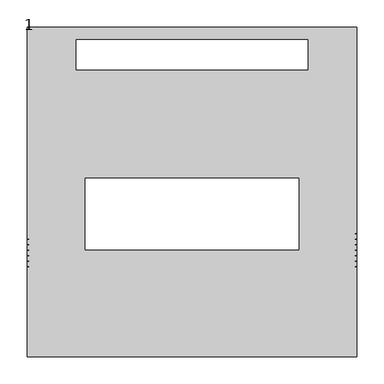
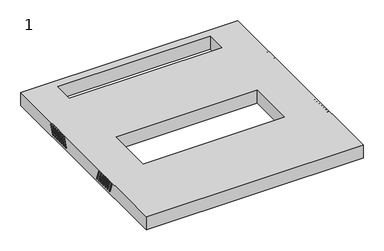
"""IFC4 building model written with IfcOpenShell, lengths in millimetres: proxy geometry, 1."""

from ifc_helpers import new_model, si_unit, frame, origin, place, context, project, spatial, polyline, circle_curve, source, transform, mapped, element, save
from ifc_brep_helpers import plane_surface, revolved_surface, advanced_brep


def proxy_1_e55c0a81(model_context):
    return source(origin(), model_context, "Body", "AdvancedBrep", [
        advanced_brep(
        [(298.0, -135.8, 345.7479679), (298.0, -126.9074763, 321.3159597), (298.0, -123.1487058, 322.6840403), (298.0, -132.0412295, 347.1160484), (298.0, -125.8, 345.7479679), (298.0, -116.9074763, 321.3159597), (298.0, -113.1487058, 322.6840403), (298.0, -122.0412295, 347.1160484), (298.0, -115.8, 345.7479679), (298.0, -106.9074763, 321.3159597), (298.0, -103.1487058, 322.6840403), (298.0, -112.0412295, 347.1160484), (298.0, -105.8, 345.7479679), (298.0, -96.9074763, 321.3159597), (298.0, -93.1487058, 322.6840403), (298.0, -102.0412295, 347.1160484), (298.0, -95.8, 345.7479679), (298.0, -86.9074763, 321.3159597), (298.0, -83.1487058, 322.6840403), (298.0, -92.0412295, 347.1160484), (298.0, -85.8, 345.7479679), (298.0, -76.9074763, 321.3159597), (298.0, -73.1487058, 322.6840403), (298.0, -82.0412295, 347.1160484), (298.0, -75.8, 345.7479679), (298.0, -66.9074763, 321.3159597), (298.0, -63.1487058, 322.6840403), (298.0, -72.0412295, 347.1160484), (300.0, -132.0412295, 347.1160484), (300.0, -135.8, 345.7479679), (300.0, -123.1487058, 322.6840403), (300.0, -126.9074763, 321.3159597), (300.0, -122.0412295, 347.1160484), (300.0, -125.8, 345.7479679), (300.0, -113.1487058, 322.6840403), (300.0, -116.9074763, 321.3159597), (300.0, -112.0412295, 347.1160484), (300.0, -115.8, 345.7479679), (300.0, -103.1487058, 322.6840403), (300.0, -106.9074763, 321.3159597), (300.0, -102.0412295, 347.1160484), (300.0, -105.8, 345.7479679), (300.0, -93.1487058, 322.6840403), (300.0, -96.9074763, 321.3159597), (300.0, -92.0412295, 347.1160484), (300.0, -95.8, 345.7479679), (300.0, -83.1487058, 322.6840403), (300.0, -86.9074763, 321.3159597), (300.0, -82.0412295, 347.1160484), (300.0, -85.8, 345.7479679), (300.0, -73.1487058, 322.6840403), (300.0, -76.9074763, 321.3159597), (300.0, -72.0412295, 347.1160484), (300.0, -75.8, 345.7479679), (300.0, -63.1487058, 322.6840403), (300.0, -66.9074763, 321.3159597), (300.0, 300.0, 314.0), (300.0, -300.0, 314.0), (-300.0, -300.0, 314.0), (-300.0, 300.0, 314.0), (-211.0, 222.5, 314.0), (211.0, 222.5, 314.0), (211.0, 277.5, 314.0), (-211.0, 277.5, 314.0), (195.0, 25.0, 314.0), (-195.0, 25.0, 314.0), (-195.0, -105.0, 314.0), (195.0, -105.0, 314.0), (300.0, 300.0, 352.0), (-300.0, 300.0, 352.0), (-300.0, -300.0, 352.0), (300.0, -300.0, 352.0), (-211.0, 222.5, 352.0), (-211.0, 277.5, 352.0), (211.0, 277.5, 352.0), (211.0, 222.5, 352.0), (195.0, 25.0, 352.0), (195.0, -105.0, 352.0), (-195.0, -105.0, 352.0), (-195.0, 25.0, 352.0), (-300.0, -66.9074763, 321.3159597), (-300.0, -63.1487058, 322.6840403), (-300.0, -72.0412295, 347.1160484), (-300.0, -75.8, 345.7479679), (-300.0, -76.9074763, 321.3159597), (-300.0, -73.1487058, 322.6840403), (-300.0, -82.0412295, 347.1160484), (-300.0, -85.8, 345.7479679), (-300.0, -86.9074763, 321.3159597), (-300.0, -83.1487058, 322.6840403), (-300.0, -92.0412295, 347.1160484), (-300.0, -95.8, 345.7479679), (-300.0, -96.9074763, 321.3159597), (-300.0, -93.1487058, 322.6840403), (-300.0, -102.0412295, 347.1160484), (-300.0, -105.8, 345.7479679), (-300.0, -106.9074763, 321.3159597), (-300.0, -103.1487058, 322.6840403), (-300.0, -112.0412295, 347.1160484), (-300.0, -115.8, 345.7479679), (-300.0, -116.9074763, 321.3159597), (-300.0, -113.1487058, 322.6840403), (-300.0, -122.0412295, 347.1160484), (-300.0, -125.8, 345.7479679), (-300.0, -126.9074763, 321.3159597), (-300.0, -123.1487058, 322.6840403), (-300.0, -132.0412295, 347.1160484), (-300.0, -135.8, 345.7479679), (-300.0, 96.0, 345.7479679), (-300.0, 92.2412295, 347.1160484), (-300.0, 83.3487058, 322.6840403), (-300.0, 87.1074763, 321.3159597), (-300.0, 106.0, 345.7479679), (-300.0, 102.2412295, 347.1160484), (-300.0, 93.3487058, 322.6840403), (-300.0, 97.1074763, 321.3159597), (-300.0, 116.0, 345.7479679), (-300.0, 112.2412295, 347.1160484), (-300.0, 103.3487058, 322.6840403), (-300.0, 107.1074763, 321.3159597), (-300.0, 126.0, 345.7479679), (-300.0, 122.2412295, 347.1160484), (-300.0, 113.3487058, 322.6840403), (-300.0, 117.1074763, 321.3159597), (-300.0, 136.0, 345.7479679), (-300.0, 132.2412295, 347.1160484), (-300.0, 123.3487058, 322.6840403), (-300.0, 127.1074763, 321.3159597), (-300.0, 146.0, 345.7479679), (-300.0, 142.2412295, 347.1160484), (-300.0, 133.3487058, 322.6840403), (-300.0, 137.1074763, 321.3159597), (-300.0, 156.0, 345.7479679), (-300.0, 152.2412295, 347.1160484), (-300.0, 143.3487058, 322.6840403), (-300.0, 147.1074763, 321.3159597), (300.0, 152.2412295, 347.1160484), (300.0, 156.0, 345.7479679), (300.0, 147.1074763, 321.3159597), (300.0, 143.3487058, 322.6840403), (300.0, 142.2412295, 347.1160484), (300.0, 146.0, 345.7479679), (300.0, 137.1074763, 321.3159597), (300.0, 133.3487058, 322.6840403), (300.0, 132.2412295, 347.1160484), (300.0, 136.0, 345.7479679), (300.0, 127.1074763, 321.3159597), (300.0, 123.3487058, 322.6840403), (300.0, 122.2412295, 347.1160484), (300.0, 126.0, 345.7479679), (300.0, 117.1074763, 321.3159597), (300.0, 113.3487058, 322.6840403), (300.0, 112.2412295, 347.1160484), (300.0, 116.0, 345.7479679), (300.0, 107.1074763, 321.3159597), (300.0, 103.3487058, 322.6840403), (300.0, 102.2412295, 347.1160484), (300.0, 106.0, 345.7479679), (300.0, 97.1074763, 321.3159597), (300.0, 93.3487058, 322.6840403), (300.0, 92.2412295, 347.1160484), (300.0, 96.0, 345.7479679), (300.0, 87.1074763, 321.3159597), (300.0, 83.3487058, 322.6840403), (298.0, 156.0, 345.7479679), (298.0, 152.2412295, 347.1160484), (298.0, 143.3487058, 322.6840403), (298.0, 147.1074763, 321.3159597), (298.0, 146.0, 345.7479679), (298.0, 142.2412295, 347.1160484), (298.0, 133.3487058, 322.6840403), (298.0, 137.1074763, 321.3159597), (298.0, 136.0, 345.7479679), (298.0, 132.2412295, 347.1160484), (298.0, 123.3487058, 322.6840403), (298.0, 127.1074763, 321.3159597), (298.0, 126.0, 345.7479679), (298.0, 122.2412295, 347.1160484), (298.0, 113.3487058, 322.6840403), (298.0, 117.1074763, 321.3159597), (298.0, 116.0, 345.7479679), (298.0, 112.2412295, 347.1160484), (298.0, 103.3487058, 322.6840403), (298.0, 107.1074763, 321.3159597), (298.0, 106.0, 345.7479679), (298.0, 102.2412295, 347.1160484), (298.0, 93.3487058, 322.6840403), (298.0, 97.1074763, 321.3159597), (298.0, 96.0, 345.7479679), (298.0, 92.2412295, 347.1160484), (298.0, 83.3487058, 322.6840403), (298.0, 87.1074763, 321.3159597), (-298.0, -63.1487058, 322.6840403), (-298.0, -66.9074763, 321.3159597), (-298.0, -75.8, 345.7479679), (-298.0, -72.0412295, 347.1160484), (-298.0, -73.1487058, 322.6840403), (-298.0, -76.9074763, 321.3159597), (-298.0, -85.8, 345.7479679), (-298.0, -82.0412295, 347.1160484), (-298.0, -83.1487058, 322.6840403), (-298.0, -86.9074763, 321.3159597), (-298.0, -95.8, 345.7479679), (-298.0, -92.0412295, 347.1160484), (-298.0, -93.1487058, 322.6840403), (-298.0, -96.9074763, 321.3159597), (-298.0, -105.8, 345.7479679), (-298.0, -102.0412295, 347.1160484), (-298.0, -103.1487058, 322.6840403), (-298.0, -106.9074763, 321.3159597), (-298.0, -115.8, 345.7479679), (-298.0, -112.0412295, 347.1160484), (-298.0, -113.1487058, 322.6840403), (-298.0, -116.9074763, 321.3159597), (-298.0, -125.8, 345.7479679), (-298.0, -122.0412295, 347.1160484), (-298.0, -123.1487058, 322.6840403), (-298.0, -126.9074763, 321.3159597), (-298.0, -135.8, 345.7479679), (-298.0, -132.0412295, 347.1160484), (-298.0, 92.2412295, 347.1160484), (-298.0, 96.0, 345.7479679), (-298.0, 87.1074763, 321.3159597), (-298.0, 83.3487058, 322.6840403), (-298.0, 102.2412295, 347.1160484), (-298.0, 106.0, 345.7479679), (-298.0, 97.1074763, 321.3159597), (-298.0, 93.3487058, 322.6840403), (-298.0, 112.2412295, 347.1160484), (-298.0, 116.0, 345.7479679), (-298.0, 107.1074763, 321.3159597), (-298.0, 103.3487058, 322.6840403), (-298.0, 122.2412295, 347.1160484), (-298.0, 126.0, 345.7479679), (-298.0, 117.1074763, 321.3159597), (-298.0, 113.3487058, 322.6840403), (-298.0, 132.2412295, 347.1160484), (-298.0, 136.0, 345.7479679), (-298.0, 127.1074763, 321.3159597), (-298.0, 123.3487058, 322.6840403), (-298.0, 142.2412295, 347.1160484), (-298.0, 146.0, 345.7479679), (-298.0, 137.1074763, 321.3159597), (-298.0, 133.3487058, 322.6840403), (-298.0, 152.2412295, 347.1160484), (-298.0, 156.0, 345.7479679), (-298.0, 147.1074763, 321.3159597), (-298.0, 143.3487058, 322.6840403)],
        [
            (0, 1),
            (1, 2, circle_curve(frame((298.0, -125.028091, 322.0), z_axis=(1.0, 0.0, 0.0), x_axis=(0.0, -1.0, 0.0)), 2.0)),
            (2, 3),
            (3, 0, circle_curve(frame((298.0, -133.9206148, 346.4320081), z_axis=(1.0, 0.0, 0.0), x_axis=(0.0, -1.0, 0.0)), 2.0)),
            (4, 5),
            (5, 6, circle_curve(frame((298.0, -115.028091, 322.0), z_axis=(1.0, 0.0, 0.0), x_axis=(0.0, -1.0, 0.0)), 2.0)),
            (6, 7),
            (7, 4, circle_curve(frame((298.0, -123.9206148, 346.4320081), z_axis=(1.0, 0.0, 0.0), x_axis=(0.0, -1.0, 0.0)), 2.0)),
            (8, 9),
            (9, 10, circle_curve(frame((298.0, -105.028091, 322.0), z_axis=(1.0, 0.0, 0.0), x_axis=(0.0, -1.0, 0.0)), 2.0)),
            (10, 11),
            (11, 8, circle_curve(frame((298.0, -113.9206148, 346.4320081), z_axis=(1.0, 0.0, 0.0), x_axis=(0.0, -1.0, 0.0)), 2.0)),
            (12, 13),
            (13, 14, circle_curve(frame((298.0, -95.028091, 322.0), z_axis=(1.0, 0.0, 0.0), x_axis=(0.0, -1.0, 0.0)), 2.0)),
            (14, 15),
            (15, 12, circle_curve(frame((298.0, -103.9206148, 346.4320081), z_axis=(1.0, 0.0, 0.0), x_axis=(0.0, -1.0, 0.0)), 2.0)),
            (16, 17),
            (17, 18, circle_curve(frame((298.0, -85.028091, 322.0), z_axis=(1.0, 0.0, 0.0), x_axis=(0.0, -1.0, 0.0)), 2.0)),
            (18, 19),
            (19, 16, circle_curve(frame((298.0, -93.9206148, 346.4320081), z_axis=(1.0, 0.0, 0.0), x_axis=(0.0, -1.0, 0.0)), 2.0)),
            (20, 21),
            (21, 22, circle_curve(frame((298.0, -75.028091, 322.0), z_axis=(1.0, 0.0, 0.0), x_axis=(0.0, -1.0, 0.0)), 2.0)),
            (22, 23),
            (23, 20, circle_curve(frame((298.0, -83.9206148, 346.4320081), z_axis=(1.0, 0.0, 0.0), x_axis=(0.0, -1.0, 0.0)), 2.0)),
            (24, 25),
            (25, 26, circle_curve(frame((298.0, -65.028091, 322.0), z_axis=(1.0, 0.0, 0.0), x_axis=(0.0, -1.0, 0.0)), 2.0)),
            (26, 27),
            (27, 24, circle_curve(frame((298.0, -73.9206148, 346.4320081), z_axis=(1.0, 0.0, 0.0), x_axis=(0.0, -1.0, 0.0)), 2.0)),
            (3, 28),
            (28, 29, circle_curve(frame((300.0, -133.9206148, 346.4320081), z_axis=(1.0, 0.0, 0.0), x_axis=(0.0, -1.0, 0.0)), 2.0)),
            (29, 0),
            (2, 30),
            (30, 28),
            (1, 31),
            (31, 30, circle_curve(frame((300.0, -125.028091, 322.0), z_axis=(1.0, 0.0, 0.0), x_axis=(0.0, -1.0, 0.0)), 2.0)),
            (29, 31),
            (7, 32),
            (32, 33, circle_curve(frame((300.0, -123.9206148, 346.4320081), z_axis=(1.0, 0.0, 0.0), x_axis=(0.0, -1.0, 0.0)), 2.0)),
            (33, 4),
            (6, 34),
            (34, 32),
            (5, 35),
            (35, 34, circle_curve(frame((300.0, -115.028091, 322.0), z_axis=(1.0, 0.0, 0.0), x_axis=(0.0, -1.0, 0.0)), 2.0)),
            (33, 35),
            (11, 36),
            (36, 37, circle_curve(frame((300.0, -113.9206148, 346.4320081), z_axis=(1.0, 0.0, 0.0), x_axis=(0.0, -1.0, 0.0)), 2.0)),
            (37, 8),
            (10, 38),
            (38, 36),
            (9, 39),
            (39, 38, circle_curve(frame((300.0, -105.028091, 322.0), z_axis=(1.0, 0.0, 0.0), x_axis=(0.0, -1.0, 0.0)), 2.0)),
            (37, 39),
            (15, 40),
            (40, 41, circle_curve(frame((300.0, -103.9206148, 346.4320081), z_axis=(1.0, 0.0, 0.0), x_axis=(0.0, -1.0, 0.0)), 2.0)),
            (41, 12),
            (14, 42),
            (42, 40),
            (13, 43),
            (43, 42, circle_curve(frame((300.0, -95.028091, 322.0), z_axis=(1.0, 0.0, 0.0), x_axis=(0.0, -1.0, 0.0)), 2.0)),
            (41, 43),
            (19, 44),
            (44, 45, circle_curve(frame((300.0, -93.9206148, 346.4320081), z_axis=(1.0, 0.0, 0.0), x_axis=(0.0, -1.0, 0.0)), 2.0)),
            (45, 16),
            (18, 46),
            (46, 44),
            (17, 47),
            (47, 46, circle_curve(frame((300.0, -85.028091, 322.0), z_axis=(1.0, 0.0, 0.0), x_axis=(0.0, -1.0, 0.0)), 2.0)),
            (45, 47),
            (23, 48),
            (48, 49, circle_curve(frame((300.0, -83.9206148, 346.4320081), z_axis=(1.0, 0.0, 0.0), x_axis=(0.0, -1.0, 0.0)), 2.0)),
            (49, 20),
            (22, 50),
            (50, 48),
            (21, 51),
            (51, 50, circle_curve(frame((300.0, -75.028091, 322.0), z_axis=(1.0, 0.0, 0.0), x_axis=(0.0, -1.0, 0.0)), 2.0)),
            (49, 51),
            (27, 52),
            (52, 53, circle_curve(frame((300.0, -73.9206148, 346.4320081), z_axis=(1.0, 0.0, 0.0), x_axis=(0.0, -1.0, 0.0)), 2.0)),
            (53, 24),
            (26, 54),
            (54, 52),
            (25, 55),
            (55, 54, circle_curve(frame((300.0, -65.028091, 322.0), z_axis=(1.0, 0.0, 0.0), x_axis=(0.0, -1.0, 0.0)), 2.0)),
            (53, 55),
            (56, 57),
            (57, 58),
            (58, 59),
            (59, 56),
            (60, 61),
            (61, 62),
            (62, 63),
            (63, 60),
            (64, 65),
            (65, 66),
            (66, 67),
            (67, 64),
            (68, 69),
            (69, 70),
            (70, 71),
            (71, 68),
            (72, 73),
            (73, 74),
            (74, 75),
            (75, 72),
            (76, 77),
            (77, 78),
            (78, 79),
            (79, 76),
            (59, 69),
            (68, 56),
            (58, 70),
            (80, 81, circle_curve(frame((-300.0, -65.028091, 322.0), z_axis=(1.0, 0.0, 0.0), x_axis=(0.0, 1.0, 0.0)), 2.0)),
            (81, 82),
            (82, 83, circle_curve(frame((-300.0, -73.9206148, 346.4320081), z_axis=(1.0, 0.0, 0.0), x_axis=(0.0, 1.0, 0.0)), 2.0)),
            (83, 80),
            (84, 85, circle_curve(frame((-300.0, -75.028091, 322.0), z_axis=(1.0, 0.0, 0.0), x_axis=(0.0, 1.0, 0.0)), 2.0)),
            (85, 86),
            (86, 87, circle_curve(frame((-300.0, -83.9206148, 346.4320081), z_axis=(1.0, 0.0, 0.0), x_axis=(0.0, 1.0, 0.0)), 2.0)),
            (87, 84),
            (88, 89, circle_curve(frame((-300.0, -85.028091, 322.0), z_axis=(1.0, 0.0, 0.0), x_axis=(0.0, 1.0, 0.0)), 2.0)),
            (89, 90),
            (90, 91, circle_curve(frame((-300.0, -93.9206148, 346.4320081), z_axis=(1.0, 0.0, 0.0), x_axis=(0.0, 1.0, 0.0)), 2.0)),
            (91, 88),
            (92, 93, circle_curve(frame((-300.0, -95.028091, 322.0), z_axis=(1.0, 0.0, 0.0), x_axis=(0.0, 1.0, 0.0)), 2.0)),
            (93, 94),
            (94, 95, circle_curve(frame((-300.0, -103.9206148, 346.4320081), z_axis=(1.0, 0.0, 0.0), x_axis=(0.0, 1.0, 0.0)), 2.0)),
            (95, 92),
            (96, 97, circle_curve(frame((-300.0, -105.028091, 322.0), z_axis=(1.0, 0.0, 0.0), x_axis=(0.0, 1.0, 0.0)), 2.0)),
            (97, 98),
            (98, 99, circle_curve(frame((-300.0, -113.9206148, 346.4320081), z_axis=(1.0, 0.0, 0.0), x_axis=(0.0, 1.0, 0.0)), 2.0)),
            (99, 96),
            (100, 101, circle_curve(frame((-300.0, -115.028091, 322.0), z_axis=(1.0, 0.0, 0.0), x_axis=(0.0, 1.0, 0.0)), 2.0)),
            (101, 102),
            (102, 103, circle_curve(frame((-300.0, -123.9206148, 346.4320081), z_axis=(1.0, 0.0, 0.0), x_axis=(0.0, 1.0, 0.0)), 2.0)),
            (103, 100),
            (104, 105, circle_curve(frame((-300.0, -125.028091, 322.0), z_axis=(1.0, 0.0, 0.0), x_axis=(0.0, 1.0, 0.0)), 2.0)),
            (105, 106),
            (106, 107, circle_curve(frame((-300.0, -133.9206148, 346.4320081), z_axis=(1.0, 0.0, 0.0), x_axis=(0.0, 1.0, 0.0)), 2.0)),
            (107, 104),
            (108, 109, circle_curve(frame((-300.0, 94.1206148, 346.4320081), z_axis=(1.0, 0.0, 0.0), x_axis=(0.0, 1.0, 0.0)), 2.0)),
            (109, 110),
            (110, 111, circle_curve(frame((-300.0, 85.228091, 322.0), z_axis=(1.0, 0.0, 0.0), x_axis=(0.0, 1.0, 0.0)), 2.0)),
            (111, 108),
            (112, 113, circle_curve(frame((-300.0, 104.1206148, 346.4320081), z_axis=(1.0, 0.0, 0.0), x_axis=(0.0, 1.0, 0.0)), 2.0)),
            (113, 114),
            (114, 115, circle_curve(frame((-300.0, 95.228091, 322.0), z_axis=(1.0, 0.0, 0.0), x_axis=(0.0, 1.0, 0.0)), 2.0)),
            (115, 112),
            (116, 117, circle_curve(frame((-300.0, 114.1206148, 346.4320081), z_axis=(1.0, 0.0, 0.0), x_axis=(0.0, 1.0, 0.0)), 2.0)),
            (117, 118),
            (118, 119, circle_curve(frame((-300.0, 105.228091, 322.0), z_axis=(1.0, 0.0, 0.0), x_axis=(0.0, 1.0, 0.0)), 2.0)),
            (119, 116),
            (120, 121, circle_curve(frame((-300.0, 124.1206148, 346.4320081), z_axis=(1.0, 0.0, 0.0), x_axis=(0.0, 1.0, 0.0)), 2.0)),
            (121, 122),
            (122, 123, circle_curve(frame((-300.0, 115.228091, 322.0), z_axis=(1.0, 0.0, 0.0), x_axis=(0.0, 1.0, 0.0)), 2.0)),
            (123, 120),
            (124, 125, circle_curve(frame((-300.0, 134.1206148, 346.4320081), z_axis=(1.0, 0.0, 0.0), x_axis=(0.0, 1.0, 0.0)), 2.0)),
            (125, 126),
            (126, 127, circle_curve(frame((-300.0, 125.228091, 322.0), z_axis=(1.0, 0.0, 0.0), x_axis=(0.0, 1.0, 0.0)), 2.0)),
            (127, 124),
            (128, 129, circle_curve(frame((-300.0, 144.1206148, 346.4320081), z_axis=(1.0, 0.0, 0.0), x_axis=(0.0, 1.0, 0.0)), 2.0)),
            (129, 130),
            (130, 131, circle_curve(frame((-300.0, 135.228091, 322.0), z_axis=(1.0, 0.0, 0.0), x_axis=(0.0, 1.0, 0.0)), 2.0)),
            (131, 128),
            (132, 133, circle_curve(frame((-300.0, 154.1206148, 346.4320081), z_axis=(1.0, 0.0, 0.0), x_axis=(0.0, 1.0, 0.0)), 2.0)),
            (133, 134),
            (134, 135, circle_curve(frame((-300.0, 145.228091, 322.0), z_axis=(1.0, 0.0, 0.0), x_axis=(0.0, 1.0, 0.0)), 2.0)),
            (135, 132),
            (57, 71),
            (136, 137, circle_curve(frame((300.0, 154.1206148, 346.4320081), z_axis=(-1.0, 0.0, 0.0), x_axis=(0.0, 1.0, 0.0)), 2.0)),
            (137, 138),
            (138, 139, circle_curve(frame((300.0, 145.228091, 322.0), z_axis=(-1.0, 0.0, 0.0), x_axis=(0.0, 1.0, 0.0)), 2.0)),
            (139, 136),
            (140, 141, circle_curve(frame((300.0, 144.1206148, 346.4320081), z_axis=(-1.0, 0.0, 0.0), x_axis=(0.0, 1.0, 0.0)), 2.0)),
            (141, 142),
            (142, 143, circle_curve(frame((300.0, 135.228091, 322.0), z_axis=(-1.0, 0.0, 0.0), x_axis=(0.0, 1.0, 0.0)), 2.0)),
            (143, 140),
            (144, 145, circle_curve(frame((300.0, 134.1206148, 346.4320081), z_axis=(-1.0, 0.0, 0.0), x_axis=(0.0, 1.0, 0.0)), 2.0)),
            (145, 146),
            (146, 147, circle_curve(frame((300.0, 125.228091, 322.0), z_axis=(-1.0, 0.0, 0.0), x_axis=(0.0, 1.0, 0.0)), 2.0)),
            (147, 144),
            (148, 149, circle_curve(frame((300.0, 124.1206148, 346.4320081), z_axis=(-1.0, 0.0, 0.0), x_axis=(0.0, 1.0, 0.0)), 2.0)),
            (149, 150),
            (150, 151, circle_curve(frame((300.0, 115.228091, 322.0), z_axis=(-1.0, 0.0, 0.0), x_axis=(0.0, 1.0, 0.0)), 2.0)),
            (151, 148),
            (152, 153, circle_curve(frame((300.0, 114.1206148, 346.4320081), z_axis=(-1.0, 0.0, 0.0), x_axis=(0.0, 1.0, 0.0)), 2.0)),
            (153, 154),
            (154, 155, circle_curve(frame((300.0, 105.228091, 322.0), z_axis=(-1.0, 0.0, 0.0), x_axis=(0.0, 1.0, 0.0)), 2.0)),
            (155, 152),
            (156, 157, circle_curve(frame((300.0, 104.1206148, 346.4320081), z_axis=(-1.0, 0.0, 0.0), x_axis=(0.0, 1.0, 0.0)), 2.0)),
            (157, 158),
            (158, 159, circle_curve(frame((300.0, 95.228091, 322.0), z_axis=(-1.0, 0.0, 0.0), x_axis=(0.0, 1.0, 0.0)), 2.0)),
            (159, 156),
            (160, 161, circle_curve(frame((300.0, 94.1206148, 346.4320081), z_axis=(-1.0, 0.0, 0.0), x_axis=(0.0, 1.0, 0.0)), 2.0)),
            (161, 162),
            (162, 163, circle_curve(frame((300.0, 85.228091, 322.0), z_axis=(-1.0, 0.0, 0.0), x_axis=(0.0, 1.0, 0.0)), 2.0)),
            (163, 160),
            (63, 73),
            (72, 60),
            (62, 74),
            (61, 75),
            (67, 77),
            (76, 64),
            (66, 78),
            (65, 79),
            (164, 165, circle_curve(frame((298.0, 154.1206148, 346.4320081), z_axis=(1.0, 0.0, 0.0), x_axis=(0.0, 1.0, 0.0)), 2.0)),
            (165, 166),
            (166, 167, circle_curve(frame((298.0, 145.228091, 322.0), z_axis=(1.0, 0.0, 0.0), x_axis=(0.0, 1.0, 0.0)), 2.0)),
            (167, 164),
            (168, 169, circle_curve(frame((298.0, 144.1206148, 346.4320081), z_axis=(1.0, 0.0, 0.0), x_axis=(0.0, 1.0, 0.0)), 2.0)),
            (169, 170),
            (170, 171, circle_curve(frame((298.0, 135.228091, 322.0), z_axis=(1.0, 0.0, 0.0), x_axis=(0.0, 1.0, 0.0)), 2.0)),
            (171, 168),
            (172, 173, circle_curve(frame((298.0, 134.1206148, 346.4320081), z_axis=(1.0, 0.0, 0.0), x_axis=(0.0, 1.0, 0.0)), 2.0)),
            (173, 174),
            (174, 175, circle_curve(frame((298.0, 125.228091, 322.0), z_axis=(1.0, 0.0, 0.0), x_axis=(0.0, 1.0, 0.0)), 2.0)),
            (175, 172),
            (176, 177, circle_curve(frame((298.0, 124.1206148, 346.4320081), z_axis=(1.0, 0.0, 0.0), x_axis=(0.0, 1.0, 0.0)), 2.0)),
            (177, 178),
            (178, 179, circle_curve(frame((298.0, 115.228091, 322.0), z_axis=(1.0, 0.0, 0.0), x_axis=(0.0, 1.0, 0.0)), 2.0)),
            (179, 176),
            (180, 181, circle_curve(frame((298.0, 114.1206148, 346.4320081), z_axis=(1.0, 0.0, 0.0), x_axis=(0.0, 1.0, 0.0)), 2.0)),
            (181, 182),
            (182, 183, circle_curve(frame((298.0, 105.228091, 322.0), z_axis=(1.0, 0.0, 0.0), x_axis=(0.0, 1.0, 0.0)), 2.0)),
            (183, 180),
            (184, 185, circle_curve(frame((298.0, 104.1206148, 346.4320081), z_axis=(1.0, 0.0, 0.0), x_axis=(0.0, 1.0, 0.0)), 2.0)),
            (185, 186),
            (186, 187, circle_curve(frame((298.0, 95.228091, 322.0), z_axis=(1.0, 0.0, 0.0), x_axis=(0.0, 1.0, 0.0)), 2.0)),
            (187, 184),
            (188, 189, circle_curve(frame((298.0, 94.1206148, 346.4320081), z_axis=(1.0, 0.0, 0.0), x_axis=(0.0, 1.0, 0.0)), 2.0)),
            (189, 190),
            (190, 191, circle_curve(frame((298.0, 85.228091, 322.0), z_axis=(1.0, 0.0, 0.0), x_axis=(0.0, 1.0, 0.0)), 2.0)),
            (191, 188),
            (164, 137),
            (136, 165),
            (139, 166),
            (138, 167),
            (168, 141),
            (140, 169),
            (143, 170),
            (142, 171),
            (172, 145),
            (144, 173),
            (147, 174),
            (146, 175),
            (176, 149),
            (148, 177),
            (151, 178),
            (150, 179),
            (180, 153),
            (152, 181),
            (155, 182),
            (154, 183),
            (184, 157),
            (156, 185),
            (159, 186),
            (158, 187),
            (188, 161),
            (160, 189),
            (163, 190),
            (162, 191),
            (192, 193, circle_curve(frame((-298.0, -65.028091, 322.0), z_axis=(-1.0, 0.0, 0.0), x_axis=(0.0, 1.0, 0.0)), 2.0)),
            (193, 194),
            (194, 195, circle_curve(frame((-298.0, -73.9206148, 346.4320081), z_axis=(-1.0, 0.0, 0.0), x_axis=(0.0, 1.0, 0.0)), 2.0)),
            (195, 192),
            (196, 197, circle_curve(frame((-298.0, -75.028091, 322.0), z_axis=(-1.0, 0.0, 0.0), x_axis=(0.0, 1.0, 0.0)), 2.0)),
            (197, 198),
            (198, 199, circle_curve(frame((-298.0, -83.9206148, 346.4320081), z_axis=(-1.0, 0.0, 0.0), x_axis=(0.0, 1.0, 0.0)), 2.0)),
            (199, 196),
            (200, 201, circle_curve(frame((-298.0, -85.028091, 322.0), z_axis=(-1.0, 0.0, 0.0), x_axis=(0.0, 1.0, 0.0)), 2.0)),
            (201, 202),
            (202, 203, circle_curve(frame((-298.0, -93.9206148, 346.4320081), z_axis=(-1.0, 0.0, 0.0), x_axis=(0.0, 1.0, 0.0)), 2.0)),
            (203, 200),
            (204, 205, circle_curve(frame((-298.0, -95.028091, 322.0), z_axis=(-1.0, 0.0, 0.0), x_axis=(0.0, 1.0, 0.0)), 2.0)),
            (205, 206),
            (206, 207, circle_curve(frame((-298.0, -103.9206148, 346.4320081), z_axis=(-1.0, 0.0, 0.0), x_axis=(0.0, 1.0, 0.0)), 2.0)),
            (207, 204),
            (208, 209, circle_curve(frame((-298.0, -105.028091, 322.0), z_axis=(-1.0, 0.0, 0.0), x_axis=(0.0, 1.0, 0.0)), 2.0)),
            (209, 210),
            (210, 211, circle_curve(frame((-298.0, -113.9206148, 346.4320081), z_axis=(-1.0, 0.0, 0.0), x_axis=(0.0, 1.0, 0.0)), 2.0)),
            (211, 208),
            (212, 213, circle_curve(frame((-298.0, -115.028091, 322.0), z_axis=(-1.0, 0.0, 0.0), x_axis=(0.0, 1.0, 0.0)), 2.0)),
            (213, 214),
            (214, 215, circle_curve(frame((-298.0, -123.9206148, 346.4320081), z_axis=(-1.0, 0.0, 0.0), x_axis=(0.0, 1.0, 0.0)), 2.0)),
            (215, 212),
            (216, 217, circle_curve(frame((-298.0, -125.028091, 322.0), z_axis=(-1.0, 0.0, 0.0), x_axis=(0.0, 1.0, 0.0)), 2.0)),
            (217, 218),
            (218, 219, circle_curve(frame((-298.0, -133.9206148, 346.4320081), z_axis=(-1.0, 0.0, 0.0), x_axis=(0.0, 1.0, 0.0)), 2.0)),
            (219, 216),
            (192, 81),
            (80, 193),
            (83, 194),
            (82, 195),
            (196, 85),
            (84, 197),
            (87, 198),
            (86, 199),
            (200, 89),
            (88, 201),
            (91, 202),
            (90, 203),
            (204, 93),
            (92, 205),
            (95, 206),
            (94, 207),
            (208, 97),
            (96, 209),
            (99, 210),
            (98, 211),
            (212, 101),
            (100, 213),
            (103, 214),
            (102, 215),
            (216, 105),
            (104, 217),
            (107, 218),
            (106, 219),
            (220, 221, circle_curve(frame((-298.0, 94.1206148, 346.4320081), z_axis=(-1.0, 0.0, 0.0), x_axis=(0.0, 1.0, 0.0)), 2.0)),
            (221, 222),
            (222, 223, circle_curve(frame((-298.0, 85.228091, 322.0), z_axis=(-1.0, 0.0, 0.0), x_axis=(0.0, 1.0, 0.0)), 2.0)),
            (223, 220),
            (224, 225, circle_curve(frame((-298.0, 104.1206148, 346.4320081), z_axis=(-1.0, 0.0, 0.0), x_axis=(0.0, 1.0, 0.0)), 2.0)),
            (225, 226),
            (226, 227, circle_curve(frame((-298.0, 95.228091, 322.0), z_axis=(-1.0, 0.0, 0.0), x_axis=(0.0, 1.0, 0.0)), 2.0)),
            (227, 224),
            (228, 229, circle_curve(frame((-298.0, 114.1206148, 346.4320081), z_axis=(-1.0, 0.0, 0.0), x_axis=(0.0, 1.0, 0.0)), 2.0)),
            (229, 230),
            (230, 231, circle_curve(frame((-298.0, 105.228091, 322.0), z_axis=(-1.0, 0.0, 0.0), x_axis=(0.0, 1.0, 0.0)), 2.0)),
            (231, 228),
            (232, 233, circle_curve(frame((-298.0, 124.1206148, 346.4320081), z_axis=(-1.0, 0.0, 0.0), x_axis=(0.0, 1.0, 0.0)), 2.0)),
            (233, 234),
            (234, 235, circle_curve(frame((-298.0, 115.228091, 322.0), z_axis=(-1.0, 0.0, 0.0), x_axis=(0.0, 1.0, 0.0)), 2.0)),
            (235, 232),
            (236, 237, circle_curve(frame((-298.0, 134.1206148, 346.4320081), z_axis=(-1.0, 0.0, 0.0), x_axis=(0.0, 1.0, 0.0)), 2.0)),
            (237, 238),
            (238, 239, circle_curve(frame((-298.0, 125.228091, 322.0), z_axis=(-1.0, 0.0, 0.0), x_axis=(0.0, 1.0, 0.0)), 2.0)),
            (239, 236),
            (240, 241, circle_curve(frame((-298.0, 144.1206148, 346.4320081), z_axis=(-1.0, 0.0, 0.0), x_axis=(0.0, 1.0, 0.0)), 2.0)),
            (241, 242),
            (242, 243, circle_curve(frame((-298.0, 135.228091, 322.0), z_axis=(-1.0, 0.0, 0.0), x_axis=(0.0, 1.0, 0.0)), 2.0)),
            (243, 240),
            (244, 245, circle_curve(frame((-298.0, 154.1206148, 346.4320081), z_axis=(-1.0, 0.0, 0.0), x_axis=(0.0, 1.0, 0.0)), 2.0)),
            (245, 246),
            (246, 247, circle_curve(frame((-298.0, 145.228091, 322.0), z_axis=(-1.0, 0.0, 0.0), x_axis=(0.0, 1.0, 0.0)), 2.0)),
            (247, 244),
            (220, 109),
            (108, 221),
            (111, 222),
            (110, 223),
            (224, 113),
            (112, 225),
            (115, 226),
            (114, 227),
            (228, 117),
            (116, 229),
            (119, 230),
            (118, 231),
            (232, 121),
            (120, 233),
            (123, 234),
            (122, 235),
            (236, 125),
            (124, 237),
            (127, 238),
            (126, 239),
            (240, 129),
            (128, 241),
            (131, 242),
            (130, 243),
            (244, 133),
            (132, 245),
            (135, 246),
            (134, 247),
        ],
        [
            plane_surface(frame((298.0, -126.9074763, 321.3159597), z_axis=(1.0, 0.0, 0.0), x_axis=(0.0, -0.34202014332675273, 0.9396926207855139))),
            revolved_surface(polyline([(300.0, -135.9206148, 346.4320081), (298.0, -135.9206148, 346.4320081)]), (298.0, -133.9206148, 346.4320081), (1.0, 0.0, 0.0)),
            plane_surface(frame((300.0, -123.1487058, 322.6840403), z_axis=(0.0, -0.9396926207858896, -0.34202014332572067), x_axis=(-1.0, 0.0, 0.0))),
            revolved_surface(polyline([(300.0, -127.028091, 322.0), (298.0, -127.028091, 322.0)]), (298.0, -125.028091, 322.0), (1.0, 0.0, 0.0)),
            plane_surface(frame((300.0, -135.8, 345.7479679), z_axis=(0.0, 0.9396926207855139, 0.34202014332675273), x_axis=(-1.0, 0.0, 0.0))),
            revolved_surface(polyline([(300.0, -125.9206148, 346.4320081), (298.0, -125.9206148, 346.4320081)]), (300.0, -123.9206148, 346.4320081), (1.0, 0.0, 0.0)),
            plane_surface(frame((300.0, -113.1487058, 322.6840403), z_axis=(0.0, -0.9396926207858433, -0.34202014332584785), x_axis=(-1.0, 0.0, 0.0))),
            revolved_surface(polyline([(300.0, -117.028091, 322.0), (298.0, -117.028091, 322.0)]), (300.0, -115.028091, 322.0), (1.0, 0.0, 0.0)),
            plane_surface(frame((300.0, -125.8, 345.7479679), z_axis=(0.0, 0.9396926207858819, 0.34202014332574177), x_axis=(-1.0, 0.0, 0.0))),
            revolved_surface(polyline([(300.0, -115.9206148, 346.4320081), (298.0, -115.9206148, 346.4320081)]), (300.0, -113.9206148, 346.4320081), (1.0, 0.0, 0.0)),
            plane_surface(frame((300.0, -103.1487058, 322.6840403), z_axis=(0.0, -0.9396926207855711, -0.3420201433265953), x_axis=(-1.0, 0.0, 0.0))),
            revolved_surface(polyline([(300.0, -107.028091, 322.0), (298.0, -107.028091, 322.0)]), (300.0, -105.028091, 322.0), (1.0, 0.0, 0.0)),
            plane_surface(frame((300.0, -115.8, 345.7479679), z_axis=(0.0, 0.9396926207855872, 0.34202014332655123), x_axis=(-1.0, 0.0, 0.0))),
            revolved_surface(polyline([(300.0, -105.9206148, 346.4320081), (298.0, -105.9206148, 346.4320081)]), (300.0, -103.9206148, 346.4320081), (1.0, 0.0, 0.0)),
            plane_surface(frame((300.0, -93.1487058, 322.6840403), z_axis=(0.0, -0.939692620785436, -0.3420201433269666), x_axis=(-1.0, 0.0, 0.0))),
            revolved_surface(polyline([(300.0, -97.028091, 322.0), (298.0, -97.028091, 322.0)]), (300.0, -95.028091, 322.0), (1.0, 0.0, 0.0)),
            plane_surface(frame((300.0, -105.8, 345.7479679), z_axis=(0.0, 0.9396926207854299, 0.34202014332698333), x_axis=(-1.0, 0.0, 0.0))),
            revolved_surface(polyline([(300.0, -95.9206148, 346.4320081), (298.0, -95.9206148, 346.4320081)]), (300.0, -93.9206148, 346.4320081), (1.0, 0.0, 0.0)),
            plane_surface(frame((300.0, -83.1487058, 322.6840403), z_axis=(0.0, -0.9396926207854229, -0.3420201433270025), x_axis=(-1.0, 0.0, 0.0))),
            revolved_surface(polyline([(300.0, -87.028091, 322.0), (298.0, -87.028091, 322.0)]), (300.0, -85.028091, 322.0), (1.0, 0.0, 0.0)),
            plane_surface(frame((300.0, -95.8, 345.7479679), z_axis=(0.0, 0.9396926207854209, 0.34202014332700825), x_axis=(-1.0, 0.0, 0.0))),
            revolved_surface(polyline([(300.0, -85.9206148, 346.4320081), (298.0, -85.9206148, 346.4320081)]), (300.0, -83.9206148, 346.4320081), (1.0, 0.0, 0.0)),
            plane_surface(frame((300.0, -73.1487058, 322.6840403), z_axis=(0.0, -0.9396926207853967, -0.34202014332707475), x_axis=(-1.0, 0.0, 0.0))),
            revolved_surface(polyline([(300.0, -77.028091, 322.0), (298.0, -77.028091, 322.0)]), (300.0, -75.028091, 322.0), (1.0, 0.0, 0.0)),
            plane_surface(frame((300.0, -85.8, 345.7479679), z_axis=(0.0, 0.9396926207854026, 0.3420201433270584), x_axis=(-1.0, 0.0, 0.0))),
            revolved_surface(polyline([(300.0, -75.9206148, 346.4320081), (298.0, -75.9206148, 346.4320081)]), (300.0, -73.9206148, 346.4320081), (1.0, 0.0, 0.0)),
            plane_surface(frame((300.0, -63.1487058, 322.6840403), z_axis=(0.0, -0.9396926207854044, -0.3420201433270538), x_axis=(-1.0, 0.0, 0.0))),
            revolved_surface(polyline([(300.0, -67.028091, 322.0), (298.0, -67.028091, 322.0)]), (300.0, -65.028091, 322.0), (1.0, 0.0, 0.0)),
            plane_surface(frame((300.0, -75.8, 345.7479679), z_axis=(0.0, 0.9396926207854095, 0.34202014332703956), x_axis=(-1.0, 0.0, 0.0))),
            plane_surface(frame((-300.0, 300.0, 314.0), z_axis=(0.0, 0.0, -1.0), x_axis=(1.0, 0.0, 0.0))),
            plane_surface(frame((-300.0, 300.0, 352.0), z_axis=(0.0, 0.0, 1.0), x_axis=(-1.0, 0.0, 0.0))),
            plane_surface(frame((300.0, 300.0, 352.0), z_axis=(0.0, 1.0, 0.0), x_axis=(0.0, 0.0, -1.0))),
            plane_surface(frame((-300.0, 300.0, 352.0), z_axis=(-1.0, 0.0, 0.0), x_axis=(0.0, 0.0, -1.0))),
            plane_surface(frame((-300.0, -300.0, 352.0), z_axis=(0.0, -1.0, 0.0), x_axis=(0.0, 0.0, -1.0))),
            plane_surface(frame((300.0, -300.0, 352.0), z_axis=(1.0, 0.0, 0.0), x_axis=(0.0, 0.0, -1.0))),
            plane_surface(frame((-211.0, 222.5, 352.0), z_axis=(1.0, 0.0, 0.0), x_axis=(0.0, 0.0, -1.0))),
            plane_surface(frame((-211.0, 277.5, 352.0), z_axis=(0.0, -1.0, 0.0), x_axis=(0.0, 0.0, -1.0))),
            plane_surface(frame((211.0, 277.5, 352.0), z_axis=(-1.0, 0.0, 0.0), x_axis=(0.0, 0.0, -1.0))),
            plane_surface(frame((211.0, 222.5, 352.0), z_axis=(0.0, 1.0, 0.0), x_axis=(0.0, 0.0, -1.0))),
            plane_surface(frame((195.0, 25.0, 352.0), z_axis=(-1.0, 0.0, 0.0), x_axis=(0.0, 0.0, -1.0))),
            plane_surface(frame((195.0, -105.0, 352.0), z_axis=(0.0, 1.0, 0.0), x_axis=(0.0, 0.0, -1.0))),
            plane_surface(frame((-195.0, -105.0, 352.0), z_axis=(1.0, 0.0, 0.0), x_axis=(0.0, 0.0, -1.0))),
            plane_surface(frame((-195.0, 25.0, 352.0), z_axis=(0.0, -1.0, 0.0), x_axis=(0.0, 0.0, -1.0))),
            plane_surface(frame((298.0, 156.1206148, 346.4320081), z_axis=(1.0, 0.0, 0.0), x_axis=(0.0, 0.0, -1.0))),
            revolved_surface(polyline([(300.0, 156.1206148, 346.4320081), (298.0, 156.1206148, 346.4320081)]), (298.0, 154.1206148, 346.4320081), (1.0, 0.0, 0.0)),
            plane_surface(frame((300.0, 152.2412295, 347.1160484), z_axis=(0.0, 0.9396926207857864, -0.34202014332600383), x_axis=(-1.0, 0.0, 0.0))),
            revolved_surface(polyline([(300.0, 147.228091, 322.0), (298.0, 147.228091, 322.0)]), (298.0, 145.228091, 322.0), (1.0, 0.0, 0.0)),
            plane_surface(frame((300.0, 147.1074763, 321.3159597), z_axis=(0.0, -0.9396926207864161, 0.3420201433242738), x_axis=(-1.0, 0.0, 0.0))),
            revolved_surface(polyline([(300.0, 146.1206148, 346.4320081), (298.0, 146.1206148, 346.4320081)]), (300.0, 144.1206148, 346.4320081), (1.0, 0.0, 0.0)),
            plane_surface(frame((300.0, 142.2412295, 347.1160484), z_axis=(0.0, 0.9396926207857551, -0.3420201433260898), x_axis=(-1.0, 0.0, 0.0))),
            revolved_surface(polyline([(300.0, 137.228091, 322.0), (298.0, 137.228091, 322.0)]), (300.0, 135.228091, 322.0), (1.0, 0.0, 0.0)),
            plane_surface(frame((300.0, 137.1074763, 321.3159597), z_axis=(0.0, -0.9396926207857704, 0.34202014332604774), x_axis=(-1.0, 0.0, 0.0))),
            revolved_surface(polyline([(300.0, 136.1206148, 346.4320081), (298.0, 136.1206148, 346.4320081)]), (300.0, 134.1206148, 346.4320081), (1.0, 0.0, 0.0)),
            plane_surface(frame((300.0, 132.2412295, 347.1160484), z_axis=(0.0, 0.9396926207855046, -0.34202014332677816), x_axis=(-1.0, 0.0, 0.0))),
            revolved_surface(polyline([(300.0, 127.228091, 322.0), (298.0, 127.228091, 322.0)]), (300.0, 125.228091, 322.0), (1.0, 0.0, 0.0)),
            plane_surface(frame((300.0, 127.1074763, 321.3159597), z_axis=(0.0, -0.939692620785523, 0.3420201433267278), x_axis=(-1.0, 0.0, 0.0))),
            revolved_surface(polyline([(300.0, 126.1206148, 346.4320081), (298.0, 126.1206148, 346.4320081)]), (300.0, 124.1206148, 346.4320081), (1.0, 0.0, 0.0)),
            plane_surface(frame((300.0, 122.2412295, 347.1160484), z_axis=(0.0, 0.9396926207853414, -0.3420201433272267), x_axis=(-1.0, 0.0, 0.0))),
            revolved_surface(polyline([(300.0, 117.228091, 322.0), (298.0, 117.228091, 322.0)]), (300.0, 115.228091, 322.0), (1.0, 0.0, 0.0)),
            plane_surface(frame((300.0, 117.1074763, 321.3159597), z_axis=(0.0, -0.9396926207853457, 0.3420201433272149), x_axis=(-1.0, 0.0, 0.0))),
            revolved_surface(polyline([(300.0, 116.1206148, 346.4320081), (298.0, 116.1206148, 346.4320081)]), (300.0, 114.1206148, 346.4320081), (1.0, 0.0, 0.0)),
            plane_surface(frame((300.0, 112.2412295, 347.1160484), z_axis=(0.0, 0.9396926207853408, -0.34202014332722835), x_axis=(-1.0, 0.0, 0.0))),
            revolved_surface(polyline([(300.0, 107.228091, 322.0), (298.0, 107.228091, 322.0)]), (300.0, 105.228091, 322.0), (1.0, 0.0, 0.0)),
            plane_surface(frame((300.0, 107.1074763, 321.3159597), z_axis=(0.0, -0.9396926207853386, 0.34202014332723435), x_axis=(-1.0, 0.0, 0.0))),
            revolved_surface(polyline([(300.0, 106.1206148, 346.4320081), (298.0, 106.1206148, 346.4320081)]), (300.0, 104.1206148, 346.4320081), (1.0, 0.0, 0.0)),
            plane_surface(frame((300.0, 102.2412295, 347.1160484), z_axis=(0.0, 0.9396926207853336, -0.3420201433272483), x_axis=(-1.0, 0.0, 0.0))),
            revolved_surface(polyline([(300.0, 97.228091, 322.0), (298.0, 97.228091, 322.0)]), (300.0, 95.228091, 322.0), (1.0, 0.0, 0.0)),
            plane_surface(frame((300.0, 97.1074763, 321.3159597), z_axis=(0.0, -0.9396926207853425, 0.3420201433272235), x_axis=(-1.0, 0.0, 0.0))),
            revolved_surface(polyline([(300.0, 96.1206148, 346.4320081), (298.0, 96.1206148, 346.4320081)]), (300.0, 94.1206148, 346.4320081), (1.0, 0.0, 0.0)),
            plane_surface(frame((300.0, 92.2412295, 347.1160484), z_axis=(0.0, 0.9396926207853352, -0.34202014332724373), x_axis=(-1.0, 0.0, 0.0))),
            revolved_surface(polyline([(300.0, 87.228091, 322.0), (298.0, 87.228091, 322.0)]), (300.0, 85.228091, 322.0), (1.0, 0.0, 0.0)),
            plane_surface(frame((300.0, 87.1074763, 321.3159597), z_axis=(0.0, -0.9396926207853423, 0.3420201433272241), x_axis=(-1.0, 0.0, 0.0))),
            plane_surface(frame((-298.0, -72.0412295, 347.1160484), z_axis=(-1.0, 0.0, 0.0), x_axis=(0.0, -0.34202014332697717, 0.9396926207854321))),
            revolved_surface(polyline([(-298.0, -63.028091, 322.0), (-300.0, -63.028091, 322.0)]), (-300.0, -65.028091, 322.0), (1.0, 0.0, 0.0)),
            plane_surface(frame((-298.0, -75.8, 345.7479679), z_axis=(0.0, 0.9396926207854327, 0.3420201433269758), x_axis=(-1.0, 0.0, 0.0))),
            revolved_surface(polyline([(-298.0, -71.9206148, 346.4320081), (-300.0, -71.9206148, 346.4320081)]), (-300.0, -73.9206148, 346.4320081), (1.0, 0.0, 0.0)),
            plane_surface(frame((-298.0, -63.1487058, 322.6840403), z_axis=(0.0, -0.9396926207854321, -0.34202014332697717), x_axis=(-1.0, 0.0, 0.0))),
            revolved_surface(polyline([(-298.0, -73.028091, 322.0), (-300.0, -73.028091, 322.0)]), (-300.0, -75.028091, 322.0), (1.0, 0.0, 0.0)),
            plane_surface(frame((-298.0, -85.8, 345.7479679), z_axis=(0.0, 0.9396926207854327, 0.34202014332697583), x_axis=(-1.0, 0.0, 0.0))),
            revolved_surface(polyline([(-298.0, -81.9206148, 346.4320081), (-300.0, -81.9206148, 346.4320081)]), (-300.0, -83.9206148, 346.4320081), (1.0, 0.0, 0.0)),
            plane_surface(frame((-298.0, -73.1487058, 322.6840403), z_axis=(0.0, -0.9396926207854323, -0.34202014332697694), x_axis=(-1.0, 0.0, 0.0))),
            revolved_surface(polyline([(-298.0, -83.028091, 322.0), (-300.0, -83.028091, 322.0)]), (-300.0, -85.028091, 322.0), (1.0, 0.0, 0.0)),
            plane_surface(frame((-298.0, -95.8, 345.7479679), z_axis=(0.0, 0.9396926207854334, 0.34202014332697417), x_axis=(-1.0, 0.0, 0.0))),
            revolved_surface(polyline([(-298.0, -91.9206148, 346.4320081), (-300.0, -91.9206148, 346.4320081)]), (-300.0, -93.9206148, 346.4320081), (1.0, 0.0, 0.0)),
            plane_surface(frame((-298.0, -83.1487058, 322.6840403), z_axis=(0.0, -0.9396926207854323, -0.342020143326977), x_axis=(-1.0, 0.0, 0.0))),
            revolved_surface(polyline([(-298.0, -93.028091, 322.0), (-300.0, -93.028091, 322.0)]), (-300.0, -95.028091, 322.0), (1.0, 0.0, 0.0)),
            plane_surface(frame((-298.0, -105.8, 345.7479679), z_axis=(0.0, 0.9396926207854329, 0.3420201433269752), x_axis=(-1.0, 0.0, 0.0))),
            revolved_surface(polyline([(-298.0, -101.9206148, 346.4320081), (-300.0, -101.9206148, 346.4320081)]), (-300.0, -103.9206148, 346.4320081), (1.0, 0.0, 0.0)),
            plane_surface(frame((-298.0, -93.1487058, 322.6840403), z_axis=(0.0, -0.9396926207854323, -0.34202014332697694), x_axis=(-1.0, 0.0, 0.0))),
            revolved_surface(polyline([(-298.0, -103.028091, 322.0), (-300.0, -103.028091, 322.0)]), (-300.0, -105.028091, 322.0), (1.0, 0.0, 0.0)),
            plane_surface(frame((-298.0, -115.8, 345.7479679), z_axis=(0.0, 0.9396926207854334, 0.3420201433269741), x_axis=(-1.0, 0.0, 0.0))),
            revolved_surface(polyline([(-298.0, -111.9206148, 346.4320081), (-300.0, -111.9206148, 346.4320081)]), (-300.0, -113.9206148, 346.4320081), (1.0, 0.0, 0.0)),
            plane_surface(frame((-298.0, -103.1487058, 322.6840403), z_axis=(0.0, -0.9396926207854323, -0.34202014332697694), x_axis=(-1.0, 0.0, 0.0))),
            revolved_surface(polyline([(-298.0, -113.028091, 322.0), (-300.0, -113.028091, 322.0)]), (-300.0, -115.028091, 322.0), (1.0, 0.0, 0.0)),
            plane_surface(frame((-298.0, -125.8, 345.7479679), z_axis=(0.0, 0.9396926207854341, 0.34202014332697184), x_axis=(-1.0, 0.0, 0.0))),
            revolved_surface(polyline([(-298.0, -121.9206148, 346.4320081), (-300.0, -121.9206148, 346.4320081)]), (-300.0, -123.9206148, 346.4320081), (1.0, 0.0, 0.0)),
            plane_surface(frame((-298.0, -113.1487058, 322.6840403), z_axis=(0.0, -0.9396926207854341, -0.3420201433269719), x_axis=(-1.0, 0.0, 0.0))),
            revolved_surface(polyline([(-298.0, -123.028091, 322.0), (-300.0, -123.028091, 322.0)]), (-300.0, -125.028091, 322.0), (1.0, 0.0, 0.0)),
            plane_surface(frame((-298.0, -135.8, 345.7479679), z_axis=(0.0, 0.9396926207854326, 0.342020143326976), x_axis=(-1.0, 0.0, 0.0))),
            revolved_surface(polyline([(-298.0, -131.9206148, 346.4320081), (-300.0, -131.9206148, 346.4320081)]), (-300.0, -133.9206148, 346.4320081), (1.0, 0.0, 0.0)),
            plane_surface(frame((-298.0, -123.1487058, 322.6840403), z_axis=(0.0, -0.9396926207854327, -0.34202014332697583), x_axis=(-1.0, 0.0, 0.0))),
            plane_surface(frame((-298.0, 83.3487058, 322.6840403), z_axis=(-1.0, 0.0, 0.0), x_axis=(0.0, -0.34202014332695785, -0.9396926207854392))),
            revolved_surface(polyline([(-298.0, 96.1206148, 346.4320081), (-300.0, 96.1206148, 346.4320081)]), (-300.0, 94.1206148, 346.4320081), (1.0, 0.0, 0.0)),
            plane_surface(frame((-298.0, 87.1074763, 321.3159597), z_axis=(0.0, -0.9396926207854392, 0.34202014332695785), x_axis=(-1.0, 0.0, 0.0))),
            revolved_surface(polyline([(-298.0, 87.228091, 322.0), (-300.0, 87.228091, 322.0)]), (-300.0, 85.228091, 322.0), (1.0, 0.0, 0.0)),
            plane_surface(frame((-298.0, 92.2412295, 347.1160484), z_axis=(0.0, 0.9396926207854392, -0.34202014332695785), x_axis=(-1.0, 0.0, 0.0))),
            revolved_surface(polyline([(-298.0, 106.1206148, 346.4320081), (-300.0, 106.1206148, 346.4320081)]), (-300.0, 104.1206148, 346.4320081), (1.0, 0.0, 0.0)),
            plane_surface(frame((-298.0, 97.1074763, 321.3159597), z_axis=(0.0, -0.9396926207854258, 0.34202014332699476), x_axis=(-1.0, 0.0, 0.0))),
            revolved_surface(polyline([(-298.0, 97.228091, 322.0), (-300.0, 97.228091, 322.0)]), (-300.0, 95.228091, 322.0), (1.0, 0.0, 0.0)),
            plane_surface(frame((-298.0, 102.2412295, 347.1160484), z_axis=(0.0, 0.9396926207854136, -0.3420201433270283), x_axis=(-1.0, 0.0, 0.0))),
            revolved_surface(polyline([(-298.0, 116.1206148, 346.4320081), (-300.0, 116.1206148, 346.4320081)]), (-300.0, 114.1206148, 346.4320081), (1.0, 0.0, 0.0)),
            plane_surface(frame((-298.0, 107.1074763, 321.3159597), z_axis=(0.0, -0.9396926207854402, 0.342020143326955), x_axis=(-1.0, 0.0, 0.0))),
            revolved_surface(polyline([(-298.0, 107.228091, 322.0), (-300.0, 107.228091, 322.0)]), (-300.0, 105.228091, 322.0), (1.0, 0.0, 0.0)),
            plane_surface(frame((-298.0, 112.2412295, 347.1160484), z_axis=(0.0, 0.9396926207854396, -0.3420201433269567), x_axis=(-1.0, 0.0, 0.0))),
            revolved_surface(polyline([(-298.0, 126.1206148, 346.4320081), (-300.0, 126.1206148, 346.4320081)]), (-300.0, 124.1206148, 346.4320081), (1.0, 0.0, 0.0)),
            plane_surface(frame((-298.0, 117.1074763, 321.3159597), z_axis=(0.0, -0.9396926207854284, 0.34202014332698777), x_axis=(-1.0, 0.0, 0.0))),
            revolved_surface(polyline([(-298.0, 117.228091, 322.0), (-300.0, 117.228091, 322.0)]), (-300.0, 115.228091, 322.0), (1.0, 0.0, 0.0)),
            plane_surface(frame((-298.0, 122.2412295, 347.1160484), z_axis=(0.0, 0.9396926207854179, -0.34202014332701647), x_axis=(-1.0, 0.0, 0.0))),
            revolved_surface(polyline([(-298.0, 136.1206148, 346.4320081), (-300.0, 136.1206148, 346.4320081)]), (-300.0, 134.1206148, 346.4320081), (1.0, 0.0, 0.0)),
            plane_surface(frame((-298.0, 127.1074763, 321.3159597), z_axis=(0.0, -0.9396926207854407, 0.34202014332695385), x_axis=(-1.0, 0.0, 0.0))),
            revolved_surface(polyline([(-298.0, 127.228091, 322.0), (-300.0, 127.228091, 322.0)]), (-300.0, 125.228091, 322.0), (1.0, 0.0, 0.0)),
            plane_surface(frame((-298.0, 132.2412295, 347.1160484), z_axis=(0.0, 0.9396926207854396, -0.3420201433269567), x_axis=(-1.0, 0.0, 0.0))),
            revolved_surface(polyline([(-298.0, 146.1206148, 346.4320081), (-300.0, 146.1206148, 346.4320081)]), (-300.0, 144.1206148, 346.4320081), (1.0, 0.0, 0.0)),
            plane_surface(frame((-298.0, 137.1074763, 321.3159597), z_axis=(0.0, -0.9396926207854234, 0.34202014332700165), x_axis=(-1.0, 0.0, 0.0))),
            revolved_surface(polyline([(-298.0, 137.228091, 322.0), (-300.0, 137.228091, 322.0)]), (-300.0, 135.228091, 322.0), (1.0, 0.0, 0.0)),
            plane_surface(frame((-298.0, 142.2412295, 347.1160484), z_axis=(0.0, 0.9396926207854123, -0.34202014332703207), x_axis=(-1.0, 0.0, 0.0))),
            revolved_surface(polyline([(-298.0, 156.1206148, 346.4320081), (-300.0, 156.1206148, 346.4320081)]), (-300.0, 154.1206148, 346.4320081), (1.0, 0.0, 0.0)),
            plane_surface(frame((-298.0, 147.1074763, 321.3159597), z_axis=(0.0, -0.9396926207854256, 0.34202014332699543), x_axis=(-1.0, 0.0, 0.0))),
            revolved_surface(polyline([(-298.0, 147.228091, 322.0), (-300.0, 147.228091, 322.0)]), (-300.0, 145.228091, 322.0), (1.0, 0.0, 0.0)),
            plane_surface(frame((-298.0, 152.2412295, 347.1160484), z_axis=(0.0, 0.9396926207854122, -0.3420201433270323), x_axis=(-1.0, 0.0, 0.0))),
        ],
        [
            (0, [[1, 2, 3, 4]]),
            (0, [[5, 6, 7, 8]]),
            (0, [[9, 10, 11, 12]]),
            (0, [[13, 14, 15, 16]]),
            (0, [[17, 18, 19, 20]]),
            (0, [[21, 22, 23, 24]]),
            (0, [[25, 26, 27, 28]]),
            (1, [[-4, 29, 30, 31]]),
            (2, [[-3, 32, 33, -29]]),
            (3, [[-2, 34, 35, -32]]),
            (4, [[-1, -31, 36, -34]]),
            (5, [[-8, 37, 38, 39]]),
            (6, [[-7, 40, 41, -37]]),
            (7, [[-6, 42, 43, -40]]),
            (8, [[-5, -39, 44, -42]]),
            (9, [[-12, 45, 46, 47]]),
            (10, [[-11, 48, 49, -45]]),
            (11, [[-10, 50, 51, -48]]),
            (12, [[-9, -47, 52, -50]]),
            (13, [[-16, 53, 54, 55]]),
            (14, [[-15, 56, 57, -53]]),
            (15, [[-14, 58, 59, -56]]),
            (16, [[-13, -55, 60, -58]]),
            (17, [[-20, 61, 62, 63]]),
            (18, [[-19, 64, 65, -61]]),
            (19, [[-18, 66, 67, -64]]),
            (20, [[-17, -63, 68, -66]]),
            (21, [[-24, 69, 70, 71]]),
            (22, [[-23, 72, 73, -69]]),
            (23, [[-22, 74, 75, -72]]),
            (24, [[-21, -71, 76, -74]]),
            (25, [[-28, 77, 78, 79]]),
            (26, [[-27, 80, 81, -77]]),
            (27, [[-26, 82, 83, -80]]),
            (28, [[-25, -79, 84, -82]]),
            (29, [[85, 86, 87, 88], [89, 90, 91, 92], [93, 94, 95, 96]]),
            (30, [[97, 98, 99, 100], [101, 102, 103, 104], [105, 106, 107, 108]]),
            (31, [[-88, 109, -97, 110]]),
            (32, [[-87, 111, -98, -109], [112, 113, 114, 115], [116, 117, 118, 119], [120, 121, 122, 123], [124, 125, 126, 127], [128, 129, 130, 131], [132, 133, 134, 135], [136, 137, 138, 139], [140, 141, 142, 143], [144, 145, 146, 147], [148, 149, 150, 151], [152, 153, 154, 155], [156, 157, 158, 159], [160, 161, 162, 163], [164, 165, 166, 167]]),
            (33, [[-86, 168, -99, -111]]),
            (34, [[-85, -110, -100, -168], [-30, -33, -35, -36], [-38, -41, -43, -44], [-46, -49, -51, -52], [-54, -57, -59, -60], [-62, -65, -67, -68], [-70, -73, -75, -76], [-78, -81, -83, -84], [169, 170, 171, 172], [173, 174, 175, 176], [177, 178, 179, 180], [181, 182, 183, 184], [185, 186, 187, 188], [189, 190, 191, 192], [193, 194, 195, 196]]),
            (35, [[-92, 197, -101, 198]]),
            (36, [[-91, 199, -102, -197]]),
            (37, [[-90, 200, -103, -199]]),
            (38, [[-89, -198, -104, -200]]),
            (39, [[-96, 201, -105, 202]]),
            (40, [[-95, 203, -106, -201]]),
            (41, [[-94, 204, -107, -203]]),
            (42, [[-93, -202, -108, -204]]),
            (43, [[205, 206, 207, 208]]),
            (43, [[209, 210, 211, 212]]),
            (43, [[213, 214, 215, 216]]),
            (43, [[217, 218, 219, 220]]),
            (43, [[221, 222, 223, 224]]),
            (43, [[225, 226, 227, 228]]),
            (43, [[229, 230, 231, 232]]),
            (44, [[-205, 233, -169, 234]]),
            (45, [[-206, -234, -172, 235]]),
            (46, [[-207, -235, -171, 236]]),
            (47, [[-208, -236, -170, -233]]),
            (48, [[-209, 237, -173, 238]]),
            (49, [[-210, -238, -176, 239]]),
            (50, [[-211, -239, -175, 240]]),
            (51, [[-212, -240, -174, -237]]),
            (52, [[-213, 241, -177, 242]]),
            (53, [[-214, -242, -180, 243]]),
            (54, [[-215, -243, -179, 244]]),
            (55, [[-216, -244, -178, -241]]),
            (56, [[-217, 245, -181, 246]]),
            (57, [[-218, -246, -184, 247]]),
            (58, [[-219, -247, -183, 248]]),
            (59, [[-220, -248, -182, -245]]),
            (60, [[-221, 249, -185, 250]]),
            (61, [[-222, -250, -188, 251]]),
            (62, [[-223, -251, -187, 252]]),
            (63, [[-224, -252, -186, -249]]),
            (64, [[-225, 253, -189, 254]]),
            (65, [[-226, -254, -192, 255]]),
            (66, [[-227, -255, -191, 256]]),
            (67, [[-228, -256, -190, -253]]),
            (68, [[-229, 257, -193, 258]]),
            (69, [[-230, -258, -196, 259]]),
            (70, [[-231, -259, -195, 260]]),
            (71, [[-232, -260, -194, -257]]),
            (72, [[261, 262, 263, 264]]),
            (72, [[265, 266, 267, 268]]),
            (72, [[269, 270, 271, 272]]),
            (72, [[273, 274, 275, 276]]),
            (72, [[277, 278, 279, 280]]),
            (72, [[281, 282, 283, 284]]),
            (72, [[285, 286, 287, 288]]),
            (73, [[-261, 289, -112, 290]]),
            (74, [[-262, -290, -115, 291]]),
            (75, [[-263, -291, -114, 292]]),
            (76, [[-264, -292, -113, -289]]),
            (77, [[-265, 293, -116, 294]]),
            (78, [[-266, -294, -119, 295]]),
            (79, [[-267, -295, -118, 296]]),
            (80, [[-268, -296, -117, -293]]),
            (81, [[-269, 297, -120, 298]]),
            (82, [[-270, -298, -123, 299]]),
            (83, [[-271, -299, -122, 300]]),
            (84, [[-272, -300, -121, -297]]),
            (85, [[-273, 301, -124, 302]]),
            (86, [[-274, -302, -127, 303]]),
            (87, [[-275, -303, -126, 304]]),
            (88, [[-276, -304, -125, -301]]),
            (89, [[-277, 305, -128, 306]]),
            (90, [[-278, -306, -131, 307]]),
            (91, [[-279, -307, -130, 308]]),
            (92, [[-280, -308, -129, -305]]),
            (93, [[-281, 309, -132, 310]]),
            (94, [[-282, -310, -135, 311]]),
            (95, [[-283, -311, -134, 312]]),
            (96, [[-284, -312, -133, -309]]),
            (97, [[-285, 313, -136, 314]]),
            (98, [[-286, -314, -139, 315]]),
            (99, [[-287, -315, -138, 316]]),
            (100, [[-288, -316, -137, -313]]),
            (101, [[317, 318, 319, 320]]),
            (101, [[321, 322, 323, 324]]),
            (101, [[325, 326, 327, 328]]),
            (101, [[329, 330, 331, 332]]),
            (101, [[333, 334, 335, 336]]),
            (101, [[337, 338, 339, 340]]),
            (101, [[341, 342, 343, 344]]),
            (102, [[-317, 345, -140, 346]]),
            (103, [[-318, -346, -143, 347]]),
            (104, [[-319, -347, -142, 348]]),
            (105, [[-320, -348, -141, -345]]),
            (106, [[-321, 349, -144, 350]]),
            (107, [[-322, -350, -147, 351]]),
            (108, [[-323, -351, -146, 352]]),
            (109, [[-324, -352, -145, -349]]),
            (110, [[-325, 353, -148, 354]]),
            (111, [[-326, -354, -151, 355]]),
            (112, [[-327, -355, -150, 356]]),
            (113, [[-328, -356, -149, -353]]),
            (114, [[-329, 357, -152, 358]]),
            (115, [[-330, -358, -155, 359]]),
            (116, [[-331, -359, -154, 360]]),
            (117, [[-332, -360, -153, -357]]),
            (118, [[-333, 361, -156, 362]]),
            (119, [[-334, -362, -159, 363]]),
            (120, [[-335, -363, -158, 364]]),
            (121, [[-336, -364, -157, -361]]),
            (122, [[-337, 365, -160, 366]]),
            (123, [[-338, -366, -163, 367]]),
            (124, [[-339, -367, -162, 368]]),
            (125, [[-340, -368, -161, -365]]),
            (126, [[-341, 369, -164, 370]]),
            (127, [[-342, -370, -167, 371]]),
            (128, [[-343, -371, -166, 372]]),
            (129, [[-344, -372, -165, -369]]),
        ],
    ),
    ])


if __name__ == "__main__":
    model = new_model("IFC4")
    model_context = context("Model", 3, world=origin())
    ifc_project = project(units=[si_unit("LENGTHUNIT", "METRE", prefix="MILLI")], contexts=[model_context])
    site = spatial("IfcSite", under=ifc_project)
    building = spatial("IfcBuilding", under=site)
    placement = place(None, origin())
    proxy_1_shape = proxy_1_e55c0a81(model_context)
    element("IfcBuildingElementProxy", 1, Name="1", ObjectType="1", at=placement, inside=building, context=model_context, shape_type="MappedRepresentation", body=[
        mapped(proxy_1_shape, transform((0.0, 0.0, 0.0), x_axis=(1.0, 0.0, 0.0), y_axis=(0.0, 1.0, 0.0), z_axis=(0.0, 0.0, 1.0))),
    ])
    save(model, "model.ifc")
